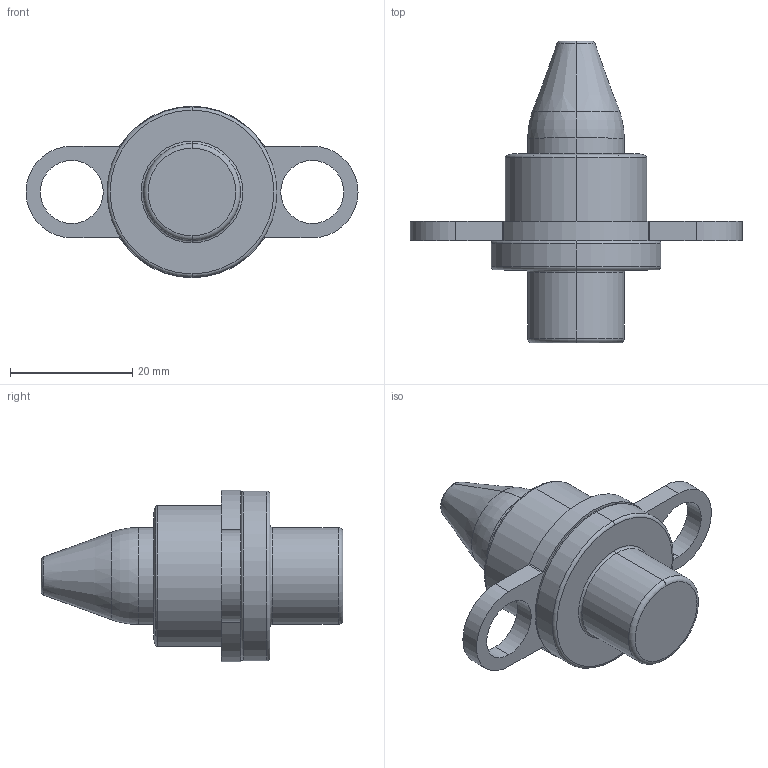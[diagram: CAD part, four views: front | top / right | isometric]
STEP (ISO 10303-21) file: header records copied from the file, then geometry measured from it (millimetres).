
FILE_DESCRIPTION (( 'STEP AP214' ), '1' );
FILE_NAME ('PA-.625-.100-R-F.stp', '2020-05-01T18:42:16', ( '' ), ( '' ), 'SwSTEP 2.0', 'SolidWorks 2017', '' );
FILE_SCHEMA (( 'AUTOMOTIVE_DESIGN' ));
Length unit declared in the file: inch
Products named in the file (1): PA-.625-.100-R-F
Bounding box: 54.36 x 49.4 x 28.07 mm (x, y, z)
Volume: 14752.1 mm3; surface area: 5378.5 mm2
Topology: 2 solids, 2 shells, 52 faces, 117 edges, 72 vertices
Faces by surface type: cylinder 23, torus 14, plane 11, cone 4
Entity records: 1538 total; most frequent: DIRECTION 301, CARTESIAN_POINT 242, ORIENTED_EDGE 234, AXIS2_PLACEMENT_3D 131, EDGE_CURVE 117, CIRCLE 78, VERTEX_POINT 72, EDGE_LOOP 61
